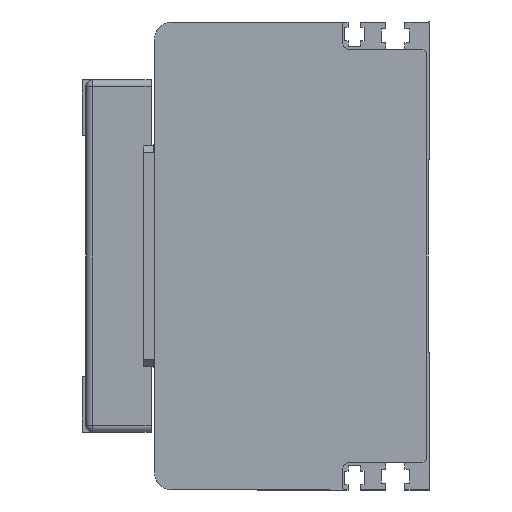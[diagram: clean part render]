
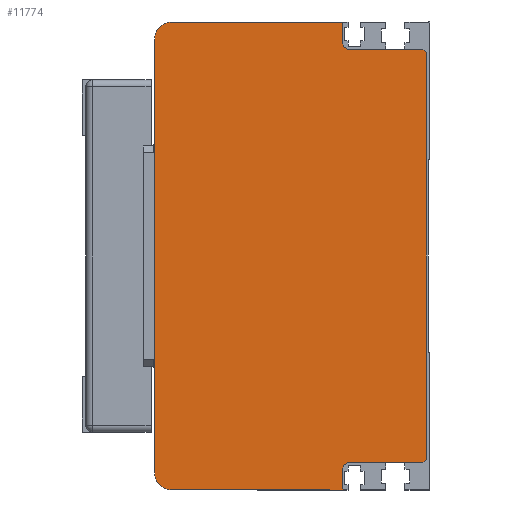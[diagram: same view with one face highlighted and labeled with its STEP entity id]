
A CAD part, left-side view. The second image highlights one B-rep face of the part: STEP entity #11774.
In plain terms, the highlighted planar face has unit normal (-1, 0, 0) as drawn and (0, 0, -1) by its records, which use the part's own axes.
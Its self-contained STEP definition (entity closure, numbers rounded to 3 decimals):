
#921=FACE_OUTER_BOUND('',#1624,.T.);
#1624=EDGE_LOOP('',(#8163,#8164,#8165,#8166,#8167,#8168,#8169,#8170,#8171,
#8172,#8173,#8174,#8175,#8176));
#2384=CIRCLE('',#12610,2.);
#2385=CIRCLE('',#12611,5.);
#2386=CIRCLE('',#12612,5.);
#2387=CIRCLE('',#12613,2.);
#2662=LINE('',#16703,#3805);
#2663=LINE('',#16705,#3806);
#2664=LINE('',#16707,#3807);
#2665=LINE('',#16709,#3808);
#2666=LINE('',#16713,#3809);
#2667=LINE('',#16715,#3810);
#2668=LINE('',#16719,#3811);
#2669=LINE('',#16723,#3812);
#2670=LINE('',#16725,#3813);
#2671=LINE('',#16728,#3814);
#3805=VECTOR('',#13765,1.414);
#3806=VECTOR('',#13766,118.);
#3807=VECTOR('',#13767,1.414);
#3808=VECTOR('',#13768,21.3);
#3809=VECTOR('',#13771,6.);
#3810=VECTOR('',#13772,49.7);
#3811=VECTOR('',#13775,126.);
#3812=VECTOR('',#13778,49.7);
#3813=VECTOR('',#13779,6.);
#3814=VECTOR('',#13782,21.3);
#5006=VERTEX_POINT('',#16701);
#5007=VERTEX_POINT('',#16702);
#5008=VERTEX_POINT('',#16704);
#5009=VERTEX_POINT('',#16706);
#5010=VERTEX_POINT('',#16708);
#5011=VERTEX_POINT('',#16710);
#5012=VERTEX_POINT('',#16712);
#5013=VERTEX_POINT('',#16714);
#5014=VERTEX_POINT('',#16716);
#5015=VERTEX_POINT('',#16718);
#5016=VERTEX_POINT('',#16720);
#5017=VERTEX_POINT('',#16722);
#5018=VERTEX_POINT('',#16724);
#5019=VERTEX_POINT('',#16726);
#6244=EDGE_CURVE('',#5006,#5007,#2662,.T.);
#6245=EDGE_CURVE('',#5006,#5008,#2663,.T.);
#6246=EDGE_CURVE('',#5009,#5008,#2664,.T.);
#6247=EDGE_CURVE('',#5009,#5010,#2665,.T.);
#6248=EDGE_CURVE('',#5011,#5010,#2384,.T.);
#6249=EDGE_CURVE('',#5011,#5012,#2666,.T.);
#6250=EDGE_CURVE('',#5012,#5013,#2667,.T.);
#6251=EDGE_CURVE('',#5013,#5014,#2385,.T.);
#6252=EDGE_CURVE('',#5014,#5015,#2668,.T.);
#6253=EDGE_CURVE('',#5015,#5016,#2386,.T.);
#6254=EDGE_CURVE('',#5016,#5017,#2669,.T.);
#6255=EDGE_CURVE('',#5017,#5018,#2670,.T.);
#6256=EDGE_CURVE('',#5019,#5018,#2387,.T.);
#6257=EDGE_CURVE('',#5019,#5007,#2671,.T.);
#8163=ORIENTED_EDGE('',*,*,#6244,.F.);
#8164=ORIENTED_EDGE('',*,*,#6245,.T.);
#8165=ORIENTED_EDGE('',*,*,#6246,.F.);
#8166=ORIENTED_EDGE('',*,*,#6247,.T.);
#8167=ORIENTED_EDGE('',*,*,#6248,.F.);
#8168=ORIENTED_EDGE('',*,*,#6249,.T.);
#8169=ORIENTED_EDGE('',*,*,#6250,.T.);
#8170=ORIENTED_EDGE('',*,*,#6251,.T.);
#8171=ORIENTED_EDGE('',*,*,#6252,.T.);
#8172=ORIENTED_EDGE('',*,*,#6253,.T.);
#8173=ORIENTED_EDGE('',*,*,#6254,.T.);
#8174=ORIENTED_EDGE('',*,*,#6255,.T.);
#8175=ORIENTED_EDGE('',*,*,#6256,.F.);
#8176=ORIENTED_EDGE('',*,*,#6257,.T.);
#11200=PLANE('',#12609);
#11774=ADVANCED_FACE('',(#921),#11200,.T.);
#12609=AXIS2_PLACEMENT_3D('',#16700,#13763,#13764);
#12610=AXIS2_PLACEMENT_3D('',#16711,#13769,#13770);
#12611=AXIS2_PLACEMENT_3D('',#16717,#13773,#13774);
#12612=AXIS2_PLACEMENT_3D('',#16721,#13776,#13777);
#12613=AXIS2_PLACEMENT_3D('',#16727,#13780,#13781);
#13763=DIRECTION('center_axis',(0.,0.,-1.));
#13764=DIRECTION('ref_axis',(0.,-1.,0.));
#13765=DIRECTION('',(0.707,0.707,0.));
#13766=DIRECTION('',(-1.,0.,0.));
#13767=DIRECTION('',(0.707,-0.707,0.));
#13768=DIRECTION('',(0.,1.,0.));
#13769=DIRECTION('center_axis',(0.,0.,-1.));
#13770=DIRECTION('ref_axis',(0.707,0.707,0.));
#13771=DIRECTION('',(-1.,0.,0.));
#13772=DIRECTION('',(0.,1.,0.));
#13773=DIRECTION('center_axis',(0.,0.,-1.));
#13774=DIRECTION('ref_axis',(-1.,0.,0.));
#13775=DIRECTION('',(1.,0.,0.));
#13776=DIRECTION('center_axis',(0.,0.,-1.));
#13777=DIRECTION('ref_axis',(0.,1.,0.));
#13778=DIRECTION('',(0.,-1.,0.));
#13779=DIRECTION('',(-1.,0.,0.));
#13780=DIRECTION('center_axis',(0.,0.,-1.));
#13781=DIRECTION('ref_axis',(-0.707,0.707,0.));
#13782=DIRECTION('',(0.,-1.,0.));
#16700=CARTESIAN_POINT('Origin',(-29.,-60.,0.));
#16701=CARTESIAN_POINT('',(66.,-74.,0.));
#16702=CARTESIAN_POINT('',(67.,-73.,0.));
#16703=CARTESIAN_POINT('',(46.,-94.,0.));
#16704=CARTESIAN_POINT('',(-52.,-74.,0.));
#16705=CARTESIAN_POINT('',(-11.,-74.,0.));
#16706=CARTESIAN_POINT('',(-53.,-73.,0.));
#16707=CARTESIAN_POINT('',(-50.,-76.,0.));
#16708=CARTESIAN_POINT('',(-53.,-51.7,0.));
#16709=CARTESIAN_POINT('',(-53.,-67.,0.));
#16710=CARTESIAN_POINT('',(-55.,-49.7,0.));
#16711=CARTESIAN_POINT('Origin',(-55.,-51.7,0.));
#16712=CARTESIAN_POINT('',(-61.,-49.7,0.));
#16713=CARTESIAN_POINT('',(-41.,-49.7,0.));
#16714=CARTESIAN_POINT('',(-61.,0.,0.));
#16715=CARTESIAN_POINT('',(-61.,-51.25,0.));
#16716=CARTESIAN_POINT('',(-56.,5.,0.));
#16717=CARTESIAN_POINT('Origin',(-56.,0.,
0.));
#16718=CARTESIAN_POINT('',(70.,5.,0.));
#16719=CARTESIAN_POINT('',(-56.,5.,0.));
#16720=CARTESIAN_POINT('',(75.,0.,0.));
#16721=CARTESIAN_POINT('Origin',(70.,0.,
0.));
#16722=CARTESIAN_POINT('',(75.,-49.7,0.));
#16723=CARTESIAN_POINT('',(75.,0.,0.));
#16724=CARTESIAN_POINT('',(69.,-49.7,0.));
#16725=CARTESIAN_POINT('',(19.,-49.7,0.));
#16726=CARTESIAN_POINT('',(67.,-51.7,0.));
#16727=CARTESIAN_POINT('Origin',(69.,-51.7,0.));
#16728=CARTESIAN_POINT('',(67.,-67.,0.));
